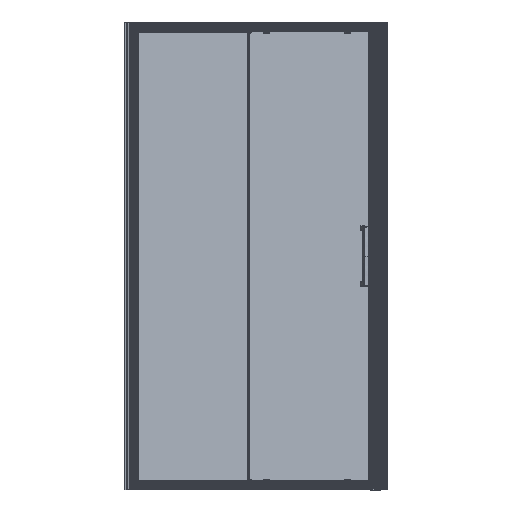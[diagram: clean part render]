
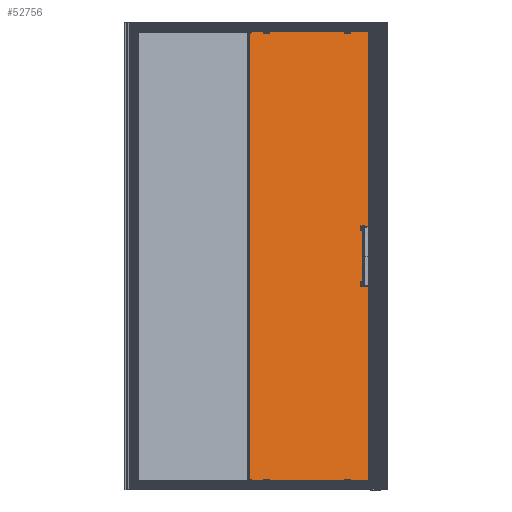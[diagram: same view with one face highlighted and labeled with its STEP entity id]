
A CAD part, front view. The second image highlights one B-rep face of the part: STEP entity #52756.
In plain terms, the highlighted planar face has unit normal (0.337, -0.942, 0) as drawn and (-1, 0, 0) by its records, which use the part's own axes.
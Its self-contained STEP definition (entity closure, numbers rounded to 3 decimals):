
#3005=LINE($,#74933,#7705);
#3009=LINE($,#74941,#7709);
#3012=LINE($,#74947,#7712);
#3015=LINE($,#74952,#7715);
#7705=VECTOR($,#60689,570.);
#7709=VECTOR($,#60695,1975.);
#7712=VECTOR($,#60700,570.);
#7715=VECTOR($,#60705,1975.);
#12410=PLANE($,#55898);
#13879=FACE_BOUND($,#17207,.T.);
#13880=FACE_BOUND($,#17208,.T.);
#13881=FACE_BOUND($,#17209,.T.);
#13882=FACE_BOUND($,#17210,.T.);
#13883=FACE_BOUND($,#17211,.T.);
#13884=FACE_BOUND($,#17212,.T.);
#13885=FACE_BOUND($,#17213,.T.);
#17207=EDGE_LOOP($,(#35815));
#17208=EDGE_LOOP($,(#35816));
#17209=EDGE_LOOP($,(#35817));
#17210=EDGE_LOOP($,(#35818));
#17211=EDGE_LOOP($,(#35819));
#17212=EDGE_LOOP($,(#35820));
#17213=EDGE_LOOP($,(#35821,#35822,#35823,#35824));
#20502=CIRCLE($,#55876,5.);
#20504=CIRCLE($,#55879,5.);
#20506=CIRCLE($,#55882,6.);
#20508=CIRCLE($,#55885,6.);
#20510=CIRCLE($,#55888,6.);
#20512=CIRCLE($,#55891,6.);
#22489=VERTEX_POINT($,#74901);
#22491=VERTEX_POINT($,#74906);
#22493=VERTEX_POINT($,#74911);
#22495=VERTEX_POINT($,#74916);
#22497=VERTEX_POINT($,#74921);
#22499=VERTEX_POINT($,#74926);
#22501=VERTEX_POINT($,#74931);
#22502=VERTEX_POINT($,#74932);
#22505=VERTEX_POINT($,#74940);
#22507=VERTEX_POINT($,#74946);
#27751=EDGE_CURVE($,#22489,#22489,#20502,.T.);
#27753=EDGE_CURVE($,#22491,#22491,#20504,.T.);
#27755=EDGE_CURVE($,#22493,#22493,#20506,.T.);
#27757=EDGE_CURVE($,#22495,#22495,#20508,.T.);
#27759=EDGE_CURVE($,#22497,#22497,#20510,.T.);
#27761=EDGE_CURVE($,#22499,#22499,#20512,.T.);
#27763=EDGE_CURVE($,#22501,#22502,#3005,.T.);
#27767=EDGE_CURVE($,#22505,#22501,#3009,.T.);
#27770=EDGE_CURVE($,#22507,#22505,#3012,.T.);
#27773=EDGE_CURVE($,#22502,#22507,#3015,.T.);
#35815=ORIENTED_EDGE($,*,*,#27751,.T.);
#35816=ORIENTED_EDGE($,*,*,#27753,.T.);
#35817=ORIENTED_EDGE($,*,*,#27755,.T.);
#35818=ORIENTED_EDGE($,*,*,#27757,.T.);
#35819=ORIENTED_EDGE($,*,*,#27759,.T.);
#35820=ORIENTED_EDGE($,*,*,#27761,.T.);
#35821=ORIENTED_EDGE($,*,*,#27773,.F.);
#35822=ORIENTED_EDGE($,*,*,#27763,.F.);
#35823=ORIENTED_EDGE($,*,*,#27767,.F.);
#35824=ORIENTED_EDGE($,*,*,#27770,.F.);
#52756=ADVANCED_FACE($,(#13879,#13880,#13881,#13882,#13883,#13884,#13885),
#12410,.F.);
#55876=AXIS2_PLACEMENT_3D($,#74902,#60653,#60654);
#55879=AXIS2_PLACEMENT_3D($,#74907,#60659,#60660);
#55882=AXIS2_PLACEMENT_3D($,#74912,#60665,#60666);
#55885=AXIS2_PLACEMENT_3D($,#74917,#60671,#60672);
#55888=AXIS2_PLACEMENT_3D($,#74922,#60677,#60678);
#55891=AXIS2_PLACEMENT_3D($,#74927,#60683,#60684);
#55898=AXIS2_PLACEMENT_3D($,#74955,#60709,#60710);
#60653=DIRECTION('center_axis',(1.,0.,0.));
#60654=DIRECTION('ref_axis',(0.,0.,-1.));
#60659=DIRECTION('center_axis',(1.,0.,0.));
#60660=DIRECTION('ref_axis',(0.,0.,-1.));
#60665=DIRECTION('center_axis',(1.,0.,0.));
#60666=DIRECTION('ref_axis',(0.,0.,-1.));
#60671=DIRECTION('center_axis',(1.,0.,0.));
#60672=DIRECTION('ref_axis',(0.,0.,-1.));
#60677=DIRECTION('center_axis',(1.,0.,0.));
#60678=DIRECTION('ref_axis',(0.,0.,-1.));
#60683=DIRECTION('center_axis',(1.,0.,0.));
#60684=DIRECTION('ref_axis',(0.,0.,-1.));
#60689=DIRECTION($,(0.,1.,0.));
#60695=DIRECTION($,(0.,0.,-1.));
#60700=DIRECTION($,(0.,-1.,0.));
#60705=DIRECTION($,(0.,0.,1.));
#60709=DIRECTION('center_axis',(1.,0.,0.));
#60710=DIRECTION('ref_axis',(0.,0.,-1.));
#74901=CARTESIAN_POINT('',(0.,-255.,-115.));
#74902=CARTESIAN_POINT('Origin',(0.,-255.,-120.));
#74906=CARTESIAN_POINT('',(0.,-255.,125.));
#74907=CARTESIAN_POINT('Origin',(0.,-255.,120.));
#74911=CARTESIAN_POINT('',(0.,185.,-963.5));
#74912=CARTESIAN_POINT('Origin',(0.,185.,-969.5));
#74916=CARTESIAN_POINT('',(0.,-185.,975.5));
#74917=CARTESIAN_POINT('Origin',(0.,-185.,969.5));
#74921=CARTESIAN_POINT('',(0.,185.,975.5));
#74922=CARTESIAN_POINT('Origin',(0.,185.,969.5));
#74926=CARTESIAN_POINT('',(0.,-185.,-963.5));
#74927=CARTESIAN_POINT('Origin',(0.,-185.,-969.5));
#74931=CARTESIAN_POINT('',(0.,-285.,-987.5));
#74932=CARTESIAN_POINT('',(0.,285.,-987.5));
#74933=CARTESIAN_POINT($,(0.,-285.,-987.5));
#74940=CARTESIAN_POINT('',(0.,-285.,987.5));
#74941=CARTESIAN_POINT($,(0.,-285.,987.5));
#74946=CARTESIAN_POINT('',(0.,285.,987.5));
#74947=CARTESIAN_POINT($,(0.,285.,987.5));
#74952=CARTESIAN_POINT($,(0.,285.,-987.5));
#74955=CARTESIAN_POINT('Origin',(0.,142.5,493.75));
